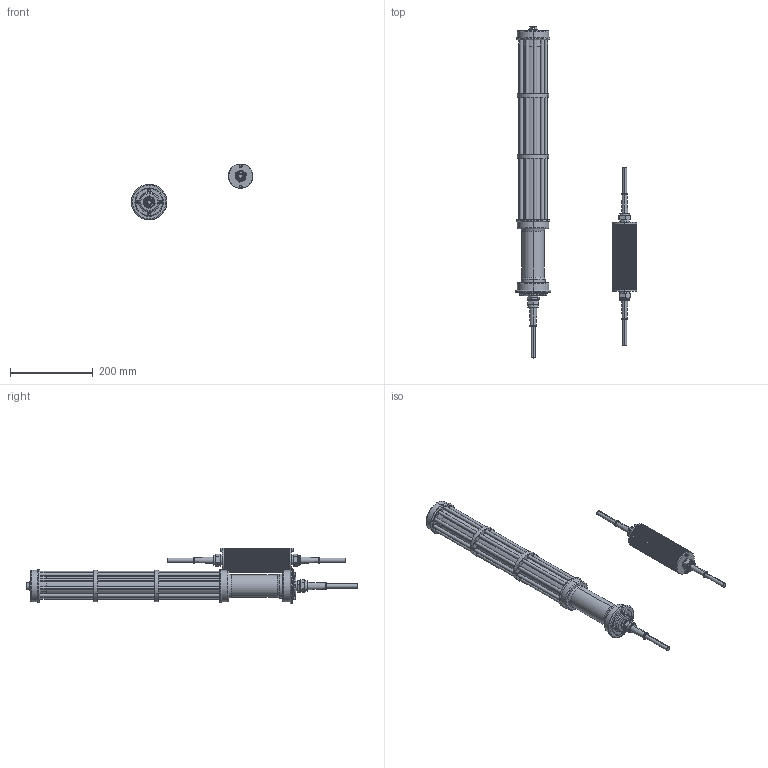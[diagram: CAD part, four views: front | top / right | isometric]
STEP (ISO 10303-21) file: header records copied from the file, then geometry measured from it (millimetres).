
FILE_DESCRIPTION (( 'STEP AP214' ), '1' );
FILE_NAME ('EPL-FL1524-25.STEP', '2010-09-18T01:49:09', ( 'Owner' ), ( 'HOME' ), 'SwSTEP 2.0', 'SolidWorks 2008', '' );
FILE_SCHEMA (( 'AUTOMOTIVE_DESIGN' ));
Length unit declared in the file: inch
Products named in the file (7): Can; Top; EPL-FL1524-25; Cage; Lens; Bulb; Handle
Assembly tree (6 placements, depth 2):
  EPL-FL1524-25
    Can
    Cage
    Lens
    Handle
    Bulb
    Top
Bounding box: 293.88 x 804.04 x 135.1 mm (x, y, z)
Volume: 1978970.8 mm3; surface area: 455263.3 mm2
Topology: 6 solids, 6 shells, 823 faces, 1868 edges, 1220 vertices
Faces by surface type: plane 426, cylinder 311, torus 62, cone 12, bspline 12
Entity records: 32267 total; most frequent: CARTESIAN_POINT 4598, DIRECTION 4552, ORIENTED_EDGE 3736, AXIS2_PLACEMENT_3D 1894, EDGE_CURVE 1868, VERTEX_POINT 1220, CIRCLE 1074, EDGE_LOOP 1028
